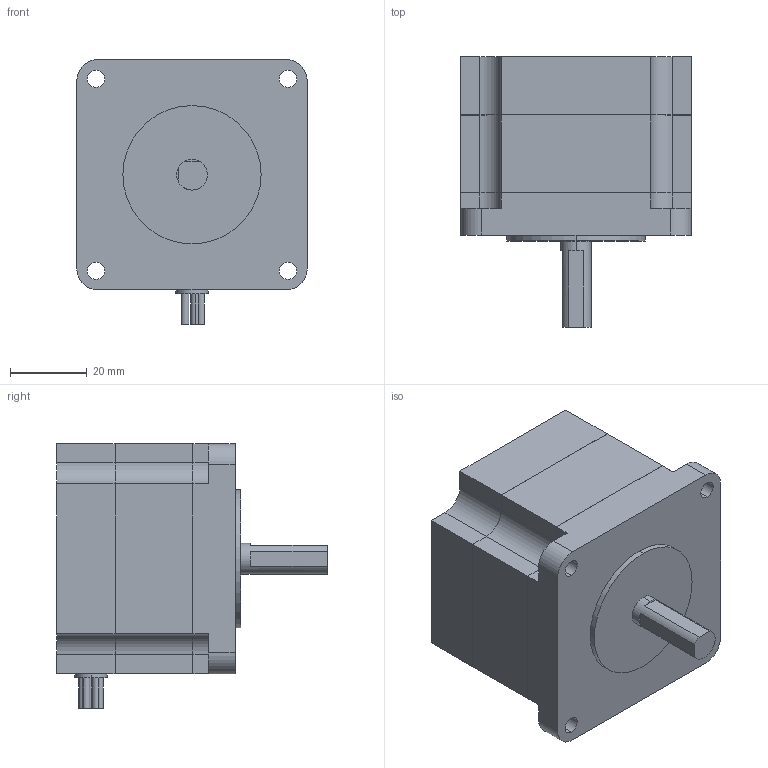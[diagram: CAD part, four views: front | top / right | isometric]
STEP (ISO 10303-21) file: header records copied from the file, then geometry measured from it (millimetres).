
FILE_DESCRIPTION(('starvars output'),'2;1');
FILE_NAME('CRK564AP.stp','15:38:17 2015/05/11',( 'Thomas Industrial Network Germany GmbH'),( 'Thomas Industrial Network Germany GmbH'),'unknown preprocess','ACIS' ,'unknown authorization');
FILE_SCHEMA(('AUTOMOTIVE_DESIGN_CC2 {UNKNOWN IMPLEMENTATION LEVEL}'));
Length unit declared in the file: millimetre
Products named in the file (1): PRODUCT_ID_360
Bounding box: 60 x 70.5 x 69 mm (x, y, z)
Volume: 153167 mm3; surface area: 19153.2 mm2
Topology: 1 solids, 1 shells, 158 faces, 412 edges, 264 vertices
Faces by surface type: plane 110, cylinder 48
Entity records: 5630 total; most frequent: ORIENTED_EDGE 824, CARTESIAN_POINT 717, DIRECTION 646, EDGE_CURVE 412, VERTEX_POINT 264, VECTOR 260, LINE 260, AXIS2_PLACEMENT_3D 193
